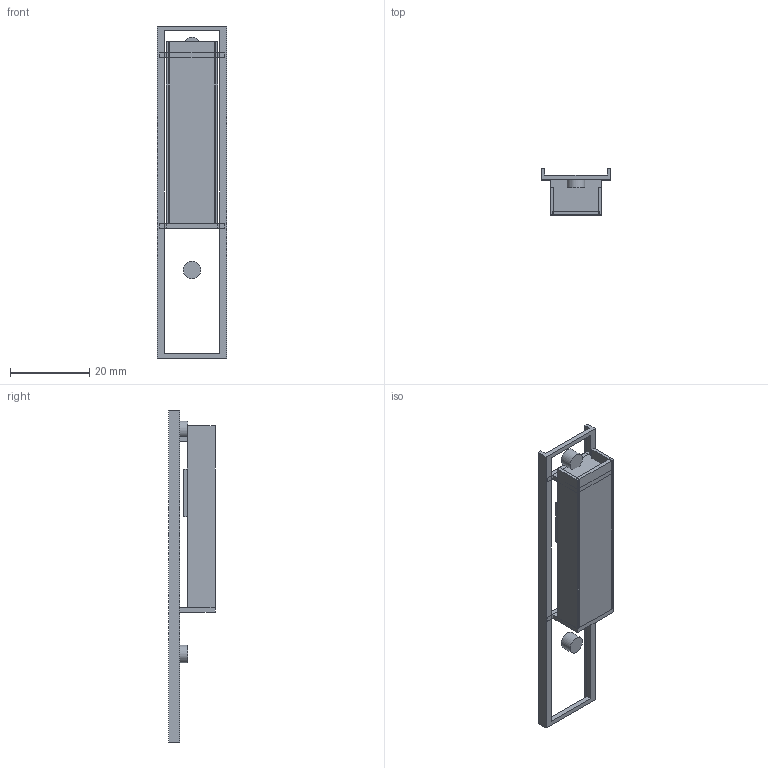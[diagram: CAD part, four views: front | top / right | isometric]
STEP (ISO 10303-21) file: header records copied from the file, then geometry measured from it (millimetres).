
FILE_DESCRIPTION(('Open CASCADE Model'),'2;1');
FILE_NAME('MW-P-002_PCB_AND_BATTERY_CARRIER','2026-08-22T00:00:00',( 'Author'),('Open CASCADE'),'Open CASCADE STEP processor 7.8', 'build123d','Unknown');
FILE_SCHEMA(('AUTOMOTIVE_DESIGN { 1 0 10303 214 1 1 1 1 }'));
Length unit declared in the file: millimetre
Products named in the file (21): MW-P-002_PCB_AND_BATTERY_CARRIER; SOLID; ASSEMBLY
Assembly tree (20 placements, depth 3):
  MW-P-002_PCB_AND_BATTERY_CARRIER
    SOLID
    SOLID
    ASSEMBLY
      SOLID
    ASSEMBLY
      SOLID
    ASSEMBLY
      SOLID
    ASSEMBLY
      SOLID
    ASSEMBLY
      SOLID
    ASSEMBLY
      SOLID
    ASSEMBLY
      SOLID
    ASSEMBLY
      SOLID
    ASSEMBLY
      SOLID
Bounding box: 17.6 x 11.7 x 84 mm (x, y, z)
Volume: 2222.2 mm3; surface area: 5450.9 mm2
Topology: 11 solids, 11 shells, 68 faces, 138 edges, 92 vertices
Faces by surface type: plane 66, cylinder 2
Full cylindrical faces by diameter (mm): 4.4 x2
Entity records: 3975 total; most frequent: CARTESIAN_POINT 603, DIRECTION 588, LINE 398, VECTOR 398, ORIENTED_EDGE 276, PCURVE 276, DEFINITIONAL_REPRESENTATION 276, EDGE_CURVE 138
